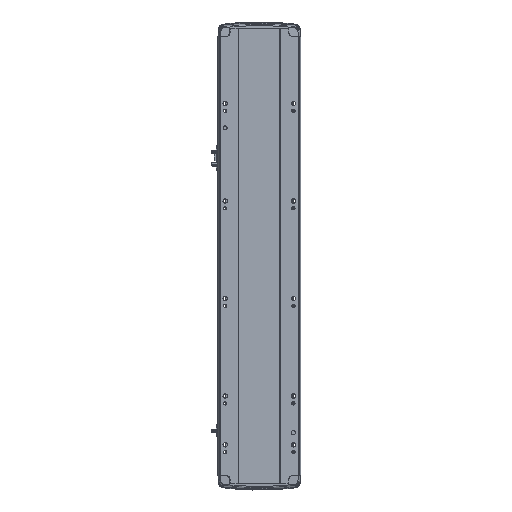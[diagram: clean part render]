
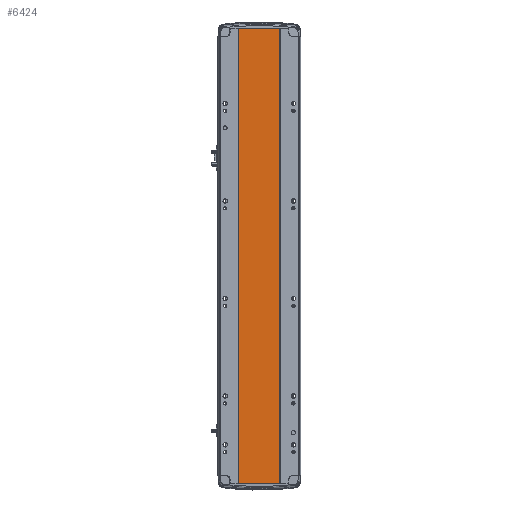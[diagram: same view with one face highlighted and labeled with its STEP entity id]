
A CAD part, front view. The second image highlights one B-rep face of the part: STEP entity #6424.
In plain terms, the highlighted planar face has unit normal (0, -1, 0).
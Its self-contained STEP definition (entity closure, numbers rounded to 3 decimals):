
#112 = DIRECTION ( 'NONE',  ( 1., 0., 0. ) ) ;
#734 = VECTOR ( 'NONE', #38307, 1000. ) ;
#1972 = CARTESIAN_POINT ( 'NONE',  ( -41.791, 1., 934.5 ) ) ;
#1983 = LINE ( 'NONE', #34570, #26083 ) ;
#2810 = LINE ( 'NONE', #1972, #24949 ) ;
#3402 = ORIENTED_EDGE ( 'NONE', *, *, #27988, .T. ) ;
#6424 = ADVANCED_FACE ( 'NONE', ( #18973 ), #30599, .F. ) ;
#7407 = EDGE_CURVE ( 'NONE', #12221, #32610, #9067, .T. ) ;
#8422 = CARTESIAN_POINT ( 'NONE',  ( 41.793, 0.998, 934.5 ) ) ;
#9067 = LINE ( 'NONE', #31873, #734 ) ;
#10992 = VERTEX_POINT ( 'NONE', #17399 ) ;
#12221 = VERTEX_POINT ( 'NONE', #28029 ) ;
#15184 = CARTESIAN_POINT ( 'NONE',  ( 0., 0.999, 934.5 ) ) ;
#15255 = VECTOR ( 'NONE', #24258, 1000. ) ;
#17399 = CARTESIAN_POINT ( 'NONE',  ( -41.791, 1., 0. ) ) ;
#17622 = CARTESIAN_POINT ( 'NONE',  ( 41.793, 0.998, 934.5 ) ) ;
#17790 = CARTESIAN_POINT ( 'NONE',  ( 41.793, 0.998, 0. ) ) ;
#17800 = DIRECTION ( 'NONE',  ( 0., 1., 0. ) ) ;
#18973 = FACE_OUTER_BOUND ( 'NONE', #38913, .T. ) ;
#19973 = EDGE_CURVE ( 'NONE', #32610, #22193, #32445, .T. ) ;
#22193 = VERTEX_POINT ( 'NONE', #17790 ) ;
#23025 = AXIS2_PLACEMENT_3D ( 'NONE', #15184, #17800, #33746 ) ;
#24258 = DIRECTION ( 'NONE',  ( 0., 0., -1. ) ) ;
#24949 = VECTOR ( 'NONE', #30167, 1000. ) ;
#26083 = VECTOR ( 'NONE', #112, 1000. ) ;
#27988 = EDGE_CURVE ( 'NONE', #12221, #10992, #2810, .T. ) ;
#28029 = CARTESIAN_POINT ( 'NONE',  ( -41.791, 1., 934.5 ) ) ;
#30167 = DIRECTION ( 'NONE',  ( 0., 0., -1. ) ) ;
#30285 = ORIENTED_EDGE ( 'NONE', *, *, #7407, .F. ) ;
#30599 = PLANE ( 'NONE',  #23025 ) ;
#31234 = ORIENTED_EDGE ( 'NONE', *, *, #19973, .F. ) ;
#31873 = CARTESIAN_POINT ( 'NONE',  ( 0., 0.999, 934.5 ) ) ;
#32445 = LINE ( 'NONE', #17622, #15255 ) ;
#32610 = VERTEX_POINT ( 'NONE', #8422 ) ;
#33698 = EDGE_CURVE ( 'NONE', #10992, #22193, #1983, .T. ) ;
#33746 = DIRECTION ( 'NONE',  ( -1., 0., 0. ) ) ;
#34570 = CARTESIAN_POINT ( 'NONE',  ( 0., 0.999, 0. ) ) ;
#38307 = DIRECTION ( 'NONE',  ( 1., 0., 0. ) ) ;
#38913 = EDGE_LOOP ( 'NONE', ( #39828, #31234, #30285, #3402 ) ) ;
#39828 = ORIENTED_EDGE ( 'NONE', *, *, #33698, .T. ) ;
